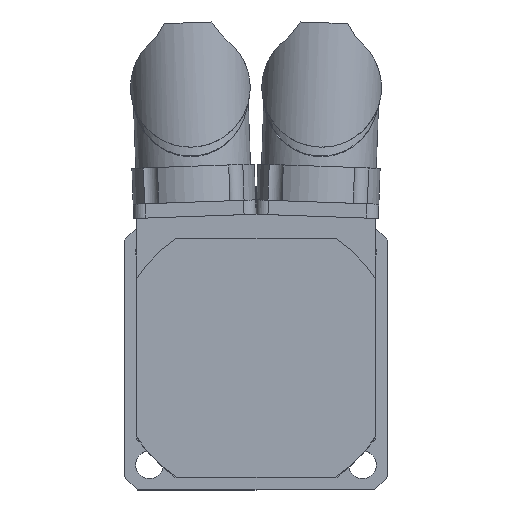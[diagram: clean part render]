
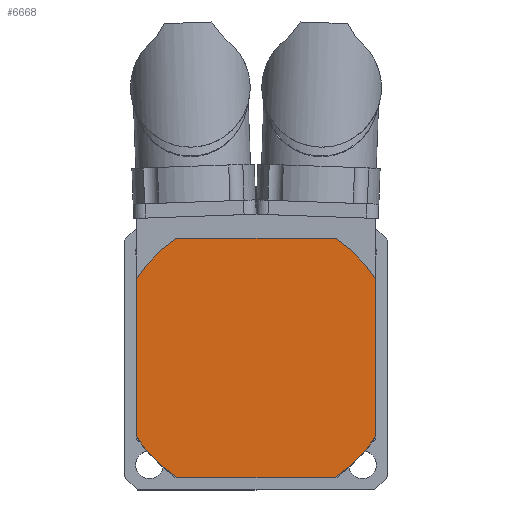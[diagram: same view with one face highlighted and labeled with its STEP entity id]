
A CAD part, top view. The second image highlights one B-rep face of the part: STEP entity #6668.
In plain terms, the highlighted planar face has unit normal (0, 0, 1).
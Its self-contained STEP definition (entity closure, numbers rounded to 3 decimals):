
#6488=CARTESIAN_POINT('',(16.583,25.0,3.5));
#6489=VERTEX_POINT('',#6488);
#6490=CARTESIAN_POINT('',(25.0,16.583,3.5));
#6491=VERTEX_POINT('',#6490);
#6492=CARTESIAN_POINT('',(0.0,0.0,3.5));
#6493=DIRECTION('',(0.0,0.0,-1.0));
#6494=DIRECTION('',(-0.833,-0.553,0.0));
#6495=AXIS2_PLACEMENT_3D('',#6492,#6493,#6494);
#6496=CIRCLE('',#6495,30.0);
#6497=EDGE_CURVE('',#6489,#6491,#6496,.T.);
#6520=CARTESIAN_POINT('',(25.,-16.583,3.5));
#6521=VERTEX_POINT('',#6520);
#6522=CARTESIAN_POINT('',(16.583,-25.0,3.5));
#6523=VERTEX_POINT('',#6522);
#6524=CARTESIAN_POINT('',(0.0,0.0,3.5));
#6525=DIRECTION('',(0.0,0.0,-1.0));
#6526=DIRECTION('',(-0.553,0.833,0.0));
#6527=AXIS2_PLACEMENT_3D('',#6524,#6525,#6526);
#6528=CIRCLE('',#6527,30.0);
#6529=EDGE_CURVE('',#6521,#6523,#6528,.T.);
#6554=CARTESIAN_POINT('',(-16.583,-25.0,3.5));
#6555=VERTEX_POINT('',#6554);
#6556=CARTESIAN_POINT('',(-25.0,-16.583,3.5));
#6557=VERTEX_POINT('',#6556);
#6558=CARTESIAN_POINT('',(0.0,0.0,3.5));
#6559=DIRECTION('',(0.0,0.0,-1.0));
#6560=DIRECTION('',(0.833,0.553,0.0));
#6561=AXIS2_PLACEMENT_3D('',#6558,#6559,#6560);
#6562=CIRCLE('',#6561,30.0);
#6563=EDGE_CURVE('',#6555,#6557,#6562,.T.);
#6594=CARTESIAN_POINT('',(-25.,16.583,3.5));
#6595=VERTEX_POINT('',#6594);
#6596=CARTESIAN_POINT('',(-16.583,25.0,3.5));
#6597=VERTEX_POINT('',#6596);
#6598=CARTESIAN_POINT('',(0.0,0.0,3.5));
#6599=DIRECTION('',(0.0,0.0,-1.0));
#6600=DIRECTION('',(0.553,-0.833,0.0));
#6601=AXIS2_PLACEMENT_3D('',#6598,#6599,#6600);
#6602=CIRCLE('',#6601,30.);
#6603=EDGE_CURVE('',#6595,#6597,#6602,.T.);
#6626=CARTESIAN_POINT('',(-16.583,25.0,3.5));
#6627=DIRECTION('',(1.0,0.0,0.0));
#6628=VECTOR('',#6627,33.166);
#6629=LINE('',#6626,#6628);
#6630=EDGE_CURVE('',#6597,#6489,#6629,.T.);
#6638=CARTESIAN_POINT('',(-27.5,-27.5,3.5));
#6639=DIRECTION('',(0.0,0.0,1.0));
#6640=DIRECTION('',(1.0,0.0,0.0));
#6641=AXIS2_PLACEMENT_3D('',#6638,#6639,#6640);
#6642=PLANE('',#6641);
#6643=ORIENTED_EDGE('',*,*,#6497,.F.);
#6644=ORIENTED_EDGE('',*,*,#6630,.F.);
#6645=ORIENTED_EDGE('',*,*,#6603,.F.);
#6646=CARTESIAN_POINT('',(-25.0,-16.583,3.5));
#6647=DIRECTION('',(0.0,1.0,0.0));
#6648=VECTOR('',#6647,33.166);
#6649=LINE('',#6646,#6648);
#6650=EDGE_CURVE('',#6557,#6595,#6649,.T.);
#6651=ORIENTED_EDGE('',*,*,#6650,.F.);
#6652=ORIENTED_EDGE('',*,*,#6563,.F.);
#6653=CARTESIAN_POINT('',(16.583,-25.0,3.5));
#6654=DIRECTION('',(-1.0,0.0,0.0));
#6655=VECTOR('',#6654,33.166);
#6656=LINE('',#6653,#6655);
#6657=EDGE_CURVE('',#6523,#6555,#6656,.T.);
#6658=ORIENTED_EDGE('',*,*,#6657,.F.);
#6659=ORIENTED_EDGE('',*,*,#6529,.F.);
#6660=CARTESIAN_POINT('',(25.0,16.583,3.5));
#6661=DIRECTION('',(0.0,-1.0,0.0));
#6662=VECTOR('',#6661,33.166);
#6663=LINE('',#6660,#6662);
#6664=EDGE_CURVE('',#6491,#6521,#6663,.T.);
#6665=ORIENTED_EDGE('',*,*,#6664,.F.);
#6666=EDGE_LOOP('',(#6643,#6644,#6645,#6651,#6652,#6658,#6659,#6665));
#6667=FACE_OUTER_BOUND('',#6666,.T.);
#6668=ADVANCED_FACE('',(#6667),#6642,.T.);
